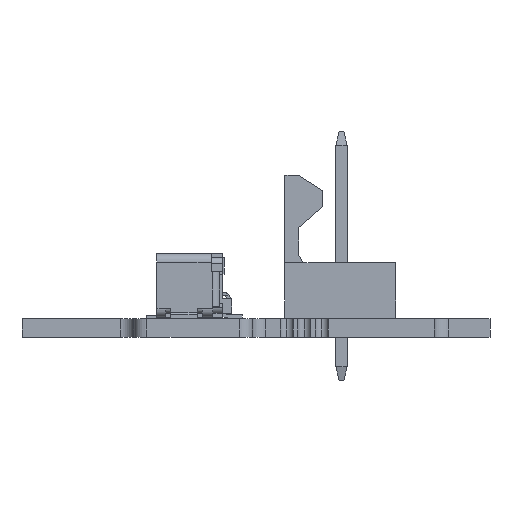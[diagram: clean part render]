
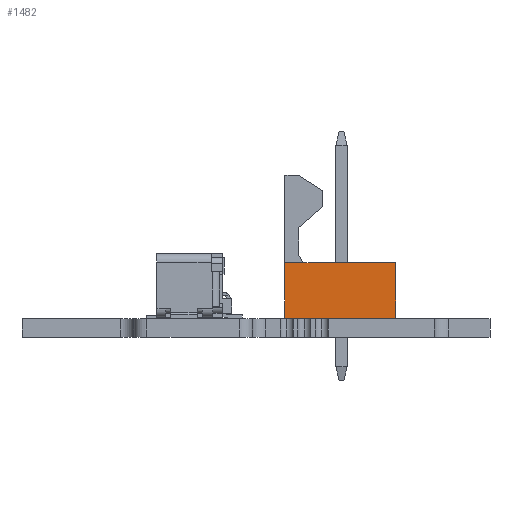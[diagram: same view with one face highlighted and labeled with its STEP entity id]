
A CAD part, left-side view. The second image highlights one B-rep face of the part: STEP entity #1482.
In plain terms, the highlighted planar face has unit normal (-1, 0, 0).
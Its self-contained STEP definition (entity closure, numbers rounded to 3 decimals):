
#1482=ADVANCED_FACE('',(#4285),#3058,.T.);
#3058=PLANE('',#31029);
#4285=FACE_OUTER_BOUND('',#5852,.T.);
#5852=EDGE_LOOP('',(#7633,#7634,#7635,#7636));
#7633=ORIENTED_EDGE('',*,*,#19417,.F.);
#7634=ORIENTED_EDGE('',*,*,#19418,.F.);
#7635=ORIENTED_EDGE('',*,*,#19415,.T.);
#7636=ORIENTED_EDGE('',*,*,#19419,.T.);
#16509=VERTEX_POINT('',#41712);
#16510=VERTEX_POINT('',#41714);
#16511=VERTEX_POINT('',#41718);
#16512=VERTEX_POINT('',#41719);
#19415=EDGE_CURVE('',#16510,#16509,#23854,.T.);
#19417=EDGE_CURVE('',#16511,#16512,#23856,.T.);
#19418=EDGE_CURVE('',#16510,#16511,#23857,.T.);
#19419=EDGE_CURVE('',#16509,#16512,#23858,.T.);
#23854=LINE('',#41713,#27443);
#23856=LINE('',#41717,#27445);
#23857=LINE('',#41720,#27446);
#23858=LINE('',#41721,#27447);
#27443=VECTOR('',#33397,1.);
#27445=VECTOR('',#33401,1.);
#27446=VECTOR('',#33402,1.);
#27447=VECTOR('',#33403,1.);
#31029=AXIS2_PLACEMENT_3D('',#41722,#33404,#33405);
#33397=DIRECTION('',(0.,-1.,0.));
#33401=DIRECTION('',(0.,-1.,0.));
#33402=DIRECTION('',(0.,0.,1.));
#33403=DIRECTION('',(0.,0.,1.));
#33404=DIRECTION('',(-1.,0.,0.));
#33405=DIRECTION('',(0.,1.,0.));
#41712=CARTESIAN_POINT('',(24.46,5.4,0.025));
#41713=CARTESIAN_POINT('',(24.46,5.4,0.025));
#41714=CARTESIAN_POINT('',(24.46,11.75,0.025));
#41717=CARTESIAN_POINT('',(24.46,5.4,3.205));
#41718=CARTESIAN_POINT('',(24.46,11.75,3.205));
#41719=CARTESIAN_POINT('',(24.46,5.4,3.205));
#41720=CARTESIAN_POINT('',(24.46,11.75,0.025));
#41721=CARTESIAN_POINT('',(24.46,5.4,0.025));
#41722=CARTESIAN_POINT('',(24.46,5.4,0.025));
